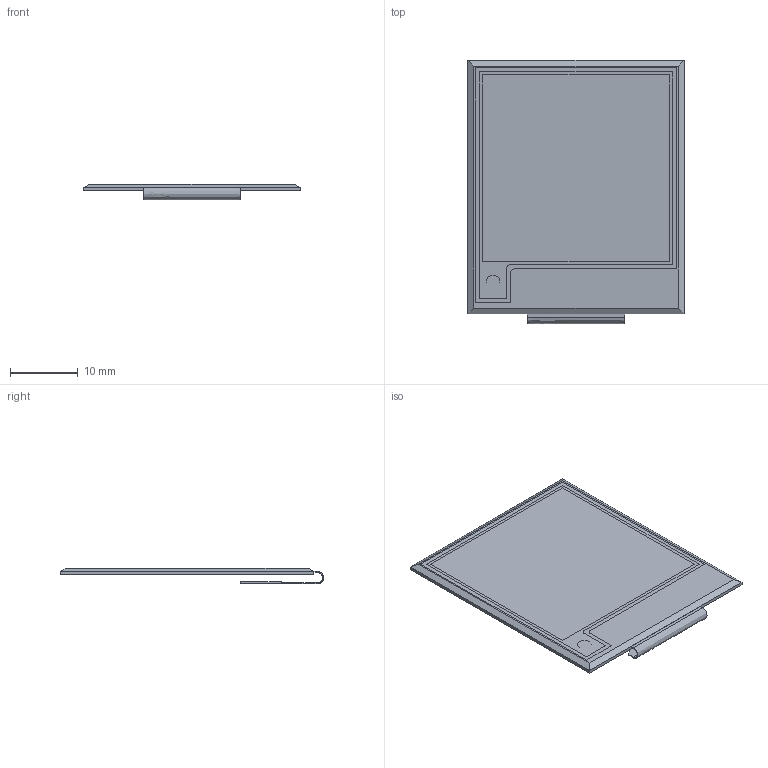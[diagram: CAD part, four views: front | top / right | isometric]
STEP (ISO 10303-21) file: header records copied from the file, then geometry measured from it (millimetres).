
FILE_DESCRIPTION (( 'STEP AP214' ), '1' );
FILE_NAME ('CFAP152152A0-0154_Bent_Tail_Guideline.STEP', '2019-08-09T21:13:56', ( '' ), ( '' ), 'SwSTEP 2.0', 'SolidWorks 2015', '' );
FILE_SCHEMA (( 'AUTOMOTIVE_DESIGN' ));
Length unit declared in the file: millimetre
Products named in the file (1): CFAP152152A0-0154_Bent_Tail_Guideline
Bounding box: 31.8 x 38.74 x 2.35 mm (x, y, z)
Volume: 1174.1 mm3; surface area: 2853.2 mm2
Topology: 2 solids, 2 shells, 131 faces, 377 edges, 254 vertices
Faces by surface type: plane 126, bspline 3, cylinder 2
Entity records: 6693 total; most frequent: CARTESIAN_POINT 2535, ORIENTED_EDGE 754, EDGE_CURVE 377, B_SPLINE_CURVE_WITH_KNOTS 327, DIRECTION 314, VERTEX_POINT 254, AXIS2_PLACEMENT_3D 135, EDGE_LOOP 135
